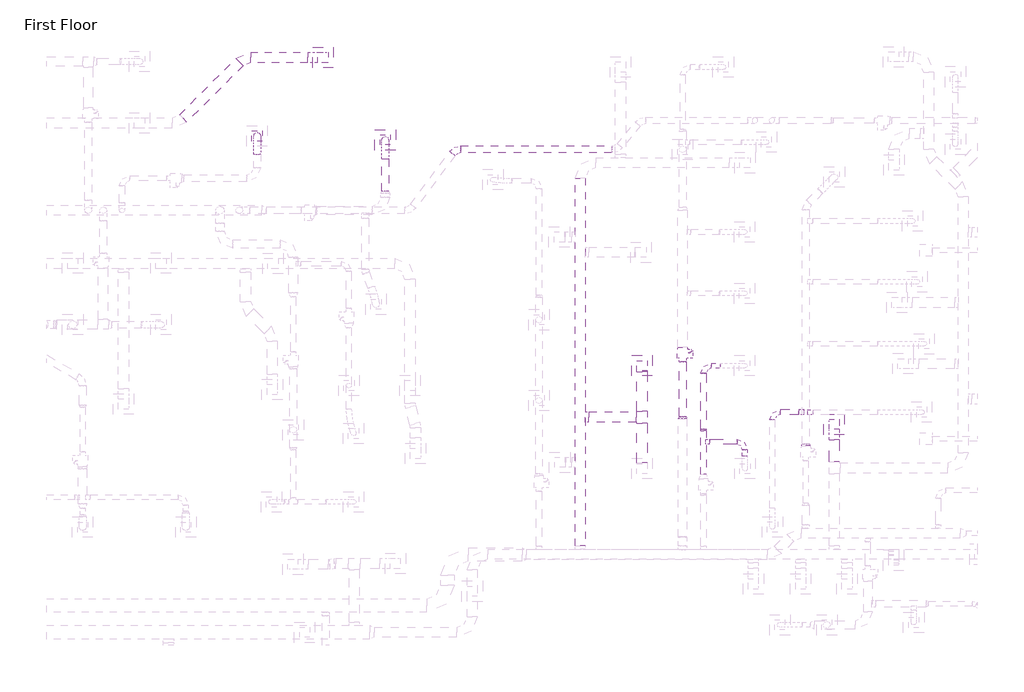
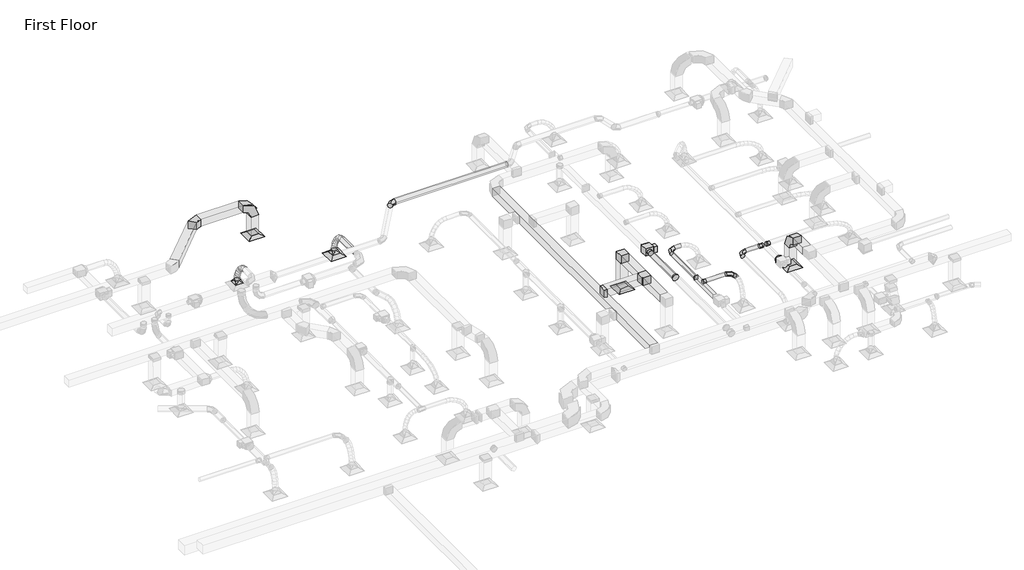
# One storey, part 26 of 61: 21 duct segments, 18 duct fittings, 4 air terminals, 1 proxy.
"""IFC4 building model written with IfcOpenShell, lengths in millimetres."""

from ifc_helpers import new_model, si_unit, point, frame, frame_2d, origin, place, context, project, spatial, polyline, circle_curve, ellipse_curve, trimmed, segment, composite_curve, outline, extrude, transform, mapped, element, save
from ifc_brep_helpers import plane_surface, cylinder_surface, advanced_brep
from components import m_exhaust_grill_er_600_x_600_face_300_x_300_connection_ff221211, m_vav_unit_single_duct_200_mm_f9143229, m_rectangular_elbow_mitered_standard_8eee5933, m_rectangular_elbow_radius_1_5_w_5bed5c13, m_rectangular_elbow_radius_1_5_w_86011e9f, m_rectangular_takeoff_standard_c00386d1, m_rectangular_tee_standard_bf2a2b7f, m_rectangular_to_round_transition_angle_45_degree_2860c485, m_rectangular_to_round_transition_angle_45_degree_60daae35, m_rectangular_to_round_transition_angle_45_degree_1b7ae117, m_round_elbow_1_5_d_2e586196, m_round_elbow_1_5_d_a73345fc, m_round_takeoff_standard_d02f3bf7, m_round_takeoff_standard_bf54a221, m_round_takeoff_standard_e1559ea3, m_round_transition_angle_45_degree_f1400fe6

model = new_model("IFC4")

# Units and contexts
model_context = context("Model", 3, world=origin())
ifc_project = project(units=[si_unit("LENGTHUNIT", "METRE", prefix="MILLI")], contexts=[model_context])

# Site, building, storey
site = spatial("IfcSite", under=ifc_project)
building = spatial("IfcBuilding", under=site)
storey = spatial("IfcBuildingStorey", under=building, Name="First Floor", Elevation=0.0)

# Air terminals
placement = place(None, origin())
m_exhaust_grill_er_600_x_600_face_300_x_300_connection_shape = m_exhaust_grill_er_600_x_600_face_300_x_300_connection_ff221211(model_context)
element("IfcAirTerminal", 1, ObjectType="M_Return Register : RR-600 x 600 Face 300 x 300 Connection", at=placement, inside=storey, context=model_context, shape_type="MappedRepresentation", body=[
    mapped(m_exhaust_grill_er_600_x_600_face_300_x_300_connection_shape, transform((-8263.3789506, 16841.5522919, 2680.0), x_axis=(1.0, 0.0, 0.0), y_axis=(0.0, 1.0, 0.0), z_axis=(0.0, 0.0, 1.0))),
])
element("IfcAirTerminal", 2, ObjectType="M_Return Register : RR-600 x 600 Face 300 x 300 Connection", at=placement, inside=storey, context=model_context, shape_type="MappedRepresentation", body=[
    mapped(m_exhaust_grill_er_600_x_600_face_300_x_300_connection_shape, transform((-13865.3877031, 18551.0725928, 2680.0), x_axis=(1.0, 0.0, 0.0), y_axis=(0.0, 1.0, 0.0), z_axis=(0.0, 0.0, 1.0))),
])
element("IfcAirTerminal", 3, ObjectType="M_Return Register : RR-600 x 600 Face 300 x 300 Connection", at=placement, inside=storey, context=model_context, shape_type="MappedRepresentation", body=[
    mapped(m_exhaust_grill_er_600_x_600_face_300_x_300_connection_shape, transform((-23165.2476431, 27536.771129, 2680.0), x_axis=(1.0, 0.0, 0.0), y_axis=(0.0, 1.0, 0.0), z_axis=(0.0, 0.0, 1.0))),
])
element("IfcAirTerminal", 4, ObjectType="M_Supply Diffuser : SD-600 x 600 Face 300 x 300 Connection", at=placement, inside=storey, context=model_context, shape_type="MappedRepresentation", body=[
    mapped(m_exhaust_grill_er_600_x_600_face_300_x_300_connection_shape, transform((-21352.0106075, 25136.6644294, 2680.0), x_axis=(1.0, 0.0, 0.0), y_axis=(0.0, 1.0, 0.0), z_axis=(0.0, 0.0, 1.0))),
])

# Proxy
m_vav_unit_single_duct_200_mm_shape = m_vav_unit_single_duct_200_mm_f9143229(model_context)
element("IfcBuildingElementProxy", 5, Name="M_VAV Unit - Single Duct : 200 mm", ObjectType="M_VAV Unit - Single Duct : 200 mm", at=placement, inside=storey, context=model_context, shape_type="MappedRepresentation", body=[
    mapped(m_vav_unit_single_duct_200_mm_shape, transform((-12680.2492424, 18762.5596581, 3500.05), x_axis=(0.0, 1.0, 0.0), y_axis=(-1.0, 0.0, 0.0), z_axis=(0.0, 0.0, 1.0))),
])

# Duct fittings
m_rectangular_elbow_mitered_standard_shape = m_rectangular_elbow_mitered_standard_8eee5933(model_context)
element("IfcDuctFitting", 6, ObjectType="M_Rectangular Elbow - Mitered : Standard", at=placement, inside=storey, context=model_context, shape_type="MappedRepresentation", body=[
    mapped(m_rectangular_elbow_mitered_standard_shape, transform((-13865.3877031, 18551.0725928, 4000.0), x_axis=(0.0, 0.0, 1.0), y_axis=(0.0, -1.0, 0.0), z_axis=(1.0, 0.0, 0.0))),
])
m_rectangular_elbow_radius_1_5_w_shape = m_rectangular_elbow_radius_1_5_w_5bed5c13(model_context)
element("IfcDuctFitting", 7, ObjectType="M_Rectangular Elbow - Radius : 1.5 W", at=placement, inside=storey, context=model_context, shape_type="MappedRepresentation", body=[
    mapped(m_rectangular_elbow_radius_1_5_w_shape, transform((-25465.2476431, 27536.771129, 4000.0), x_axis=(-1.0, 0.0, 0.0), y_axis=(0.0, -1.0, 0.0), z_axis=(0.0, 0.0, 1.0))),
])
m_rectangular_elbow_radius_1_5_w_2_shape = m_rectangular_elbow_radius_1_5_w_86011e9f(model_context)
element("IfcDuctFitting", 8, ObjectType="M_Rectangular Elbow - Radius : 1.5 W", at=placement, inside=storey, context=model_context, shape_type="MappedRepresentation", body=[
    mapped(m_rectangular_elbow_radius_1_5_w_2_shape, transform((-8263.3789506, 16841.5522919, 4000.0), x_axis=(0.0, 0.0, 1.0), y_axis=(0.0, -1.0, 0.0), z_axis=(1.0, 0.0, 0.0))),
])
element("IfcDuctFitting", 9, ObjectType="M_Rectangular Elbow - Radius : 1.5 W", at=placement, inside=storey, context=model_context, shape_type="MappedRepresentation", body=[
    mapped(m_rectangular_elbow_radius_1_5_w_2_shape, transform((-23165.2476431, 27536.771129, 4000.0), x_axis=(0.0, 0.0, 1.0), y_axis=(-1.0, 0.0, 0.0), z_axis=(0.0, -1.0, 0.0))),
])
m_rectangular_takeoff_standard_shape = m_rectangular_takeoff_standard_c00386d1(model_context)
element("IfcDuctFitting", 10, ObjectType="M_Rectangular Takeoff : Standard", at=placement, inside=storey, context=model_context, shape_type="MappedRepresentation", body=[
    mapped(m_rectangular_takeoff_standard_shape, transform((-15515.3877031, 17051.0725928, 4000.0), x_axis=(1.0, 0.0, 0.0), y_axis=(0.0, -1.0, 0.0), z_axis=(0.0, 0.0, -1.0))),
])
m_rectangular_tee_standard_shape = m_rectangular_tee_standard_bf2a2b7f(model_context)
element("IfcDuctFitting", 11, ObjectType="M_Rectangular Tee : Standard", at=placement, inside=storey, context=model_context, shape_type="MappedRepresentation", body=[
    mapped(m_rectangular_tee_standard_shape, transform((-13865.3877031, 17051.0725928, 4000.0), x_axis=(0.0, -1.0, 0.0), y_axis=(1.0, 0.0, 0.0), z_axis=(0.0, 0.0, 1.0))),
])
m_rectangular_to_round_transition_angle_45_degree_shape = m_rectangular_to_round_transition_angle_45_degree_2860c485(model_context)
element("IfcDuctFitting", 12, ObjectType="M_Rectangular to Round Transition - Angle : 45 Degree", at=placement, inside=storey, context=model_context, shape_type="MappedRepresentation", body=[
    mapped(m_rectangular_to_round_transition_angle_45_degree_shape, transform((-12071.862176, 16660.3073912, 3619.1), x_axis=(0.0, 1.0, 0.0), y_axis=(-1.0, 0.0, 0.0), z_axis=(0.0, 0.0, 1.0))),
])
m_rectangular_to_round_transition_angle_45_degree_2_shape = m_rectangular_to_round_transition_angle_45_degree_60daae35(model_context)
element("IfcDuctFitting", 13, ObjectType="M_Rectangular to Round Transition - Angle : 45 Degree", at=placement, inside=storey, context=model_context, shape_type="MappedRepresentation", body=[
    mapped(m_rectangular_to_round_transition_angle_45_degree_2_shape, transform((-21352.0106075, 25136.6644294, 2781.6), x_axis=(0.0, 0.0, 1.0), y_axis=(1.0, 0.0, 0.0), z_axis=(0.0, 1.0, 0.0))),
])
element("IfcDuctFitting", 14, ObjectType="M_Rectangular to Round Transition - Angle : 45 Degree", at=placement, inside=storey, context=model_context, shape_type="MappedRepresentation", body=[
    mapped(m_rectangular_to_round_transition_angle_45_degree_2_shape, transform((-25088.7510088, 25251.4077861, 2781.6), x_axis=(0.0, 0.0, 1.0), y_axis=(1.0, 0.0, 0.0), z_axis=(0.0, 1.0, 0.0))),
])
m_rectangular_to_round_transition_angle_45_degree_3_shape = m_rectangular_to_round_transition_angle_45_degree_1b7ae117(model_context)
element("IfcDuctFitting", 15, ObjectType="M_Rectangular to Round Transition - Angle : 45 Degree", at=placement, inside=storey, context=model_context, shape_type="MappedRepresentation", body=[
    mapped(m_rectangular_to_round_transition_angle_45_degree_3_shape, transform((-9089.2747853, 16220.4514222, 3619.05), x_axis=(0.0, 1.0, 0.0), y_axis=(-1.0, 0.0, 0.0), z_axis=(0.0, 0.0, 1.0))),
])
m_round_elbow_1_5_d_shape = m_round_elbow_1_5_d_2e586196(model_context)
element("IfcDuctFitting", 16, ObjectType="M_Round Elbow : 1.5 D", at=placement, inside=storey, context=model_context, shape_type="MappedRepresentation", body=[
    mapped(m_round_elbow_1_5_d_shape, transform((-10064.6506734, 17199.0230723, 3619.1), x_axis=(-1.0, 0.0, 0.0), y_axis=(0.0, -1.0, 0.0), z_axis=(0.0, 0.0, 1.0))),
])
element("IfcDuctFitting", 17, ObjectType="M_Round Elbow : 1.5 D", at=placement, inside=storey, context=model_context, shape_type="MappedRepresentation", body=[
    mapped(m_round_elbow_1_5_d_shape, transform((-12071.862176, 18551.0725928, 3619.1), x_axis=(-1.0, 0.0, 0.0), y_axis=(0.0, -1.0, 0.0), z_axis=(0.0, 0.0, 1.0))),
])
element("IfcDuctFitting", 18, ObjectType="M_Round Elbow : 1.5 D", at=placement, inside=storey, context=model_context, shape_type="MappedRepresentation", body=[
    mapped(m_round_elbow_1_5_d_shape, transform((-10867.3062165, 16331.2313331, 3619.1), x_axis=(0.0, 1.0, 0.0), y_axis=(-1.0, 0.0, 0.0), z_axis=(0.0, 0.0, 1.0))),
])
m_round_elbow_1_5_d_2_shape = m_round_elbow_1_5_d_a73345fc(model_context)
element("IfcDuctFitting", 19, ObjectType="M_Round Elbow : 1.5 D", at=placement, inside=storey, context=model_context, shape_type="MappedRepresentation", body=[
    mapped(m_round_elbow_1_5_d_2_shape, transform((-19305.4144275, 24857.2942874, 4279.0), x_axis=(-1.0, 0.0, 0.0), y_axis=(0.0, -1.0, 0.0), z_axis=(0.0, 0.0, 1.0))),
])
m_round_takeoff_standard_shape = m_round_takeoff_standard_d02f3bf7(model_context)
element("IfcDuctFitting", 20, ObjectType="M_Round Takeoff : Standard", at=placement, inside=storey, context=model_context, shape_type="MappedRepresentation", body=[
    mapped(m_round_takeoff_standard_shape, transform((-11996.862176, 16331.2313331, 3619.1), x_axis=(1.0, 0.0, 0.0), y_axis=(0.0, -1.0, 0.0), z_axis=(0.0, 0.0, -1.0))),
])
m_round_takeoff_standard_2_shape = m_round_takeoff_standard_bf54a221(model_context)
element("IfcDuctFitting", 21, ObjectType="M_Round Takeoff : Standard", at=placement, inside=storey, context=model_context, shape_type="MappedRepresentation", body=[
    mapped(m_round_takeoff_standard_2_shape, transform((-8989.2747853, 17198.591812, 3619.1), x_axis=(1.0, 0.0, 0.0), y_axis=(0.0, -1.0, 0.0), z_axis=(0.0, 0.0, -1.0))),
])
m_round_takeoff_standard_3_shape = m_round_takeoff_standard_e1559ea3(model_context)
element("IfcDuctFitting", 22, ObjectType="M_Round Takeoff : Standard", at=placement, inside=storey, context=model_context, shape_type="MappedRepresentation", body=[
    mapped(m_round_takeoff_standard_3_shape, transform((-9189.2747853, 17199.0230723, 3619.1), x_axis=(-1.0, 0.0, 0.0), y_axis=(0.0, 1.0, 0.0), z_axis=(0.0, 0.0, -1.0))),
])
m_round_transition_angle_45_degree_shape = m_round_transition_angle_45_degree_f1400fe6(model_context)
element("IfcDuctFitting", 23, ObjectType="M_Round Transition - Angle : 45 Degree", at=placement, inside=storey, context=model_context, shape_type="MappedRepresentation", body=[
    mapped(m_round_transition_angle_45_degree_shape, transform((-12680.8992424, 17060.9596581, 3634.6), x_axis=(0.0, -0.9999999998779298, 1.5624999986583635e-05), y_axis=(1.0000000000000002, 0.0, 0.0), z_axis=(0.0, 1.5624999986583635e-05, 0.9999999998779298))),
])

# Duct segments
element("IfcDuctSegment", 24, ObjectType="Flex - Round", at=placement, inside=storey, context=model_context, shape_type="AdvancedBrep", body=[
    advanced_brep(
    [(-21452.0106075, 24579.8596581, 3644.1), (-21352.0106075, 24563.0700207, 3545.519535), (-21252.0106075, 24579.8596581, 3644.1), (-21352.0106075, 24596.6492956, 3742.680465), (-21452.0106075, 24692.5508892, 3624.9071009), (-21352.0106075, 24660.7852119, 3528.8772658), (-21252.0106075, 24692.5508892, 3624.9071009), (-21352.0106075, 24724.3165664, 3720.936936), (-21452.0106075, 25136.6644294, 2902.3106781), (-21352.0106075, 25236.2328718, 2911.591048), (-21252.0106075, 25136.6644294, 2902.3106781), (-21352.0106075, 25037.0959869, 2893.0303083), (-21452.0106075, 24797.2921153, 3571.6726557), (-21352.0106075, 24741.3989733, 3487.9055394), (-21252.0106075, 24797.2921153, 3571.6726557), (-21352.0106075, 24853.1852573, 3655.439772), (-21452.0106075, 24891.9025341, 3490.9130422), (-21352.0106075, 24819.9539516, 3420.850877), (-21252.0106075, 24891.9025341, 3490.9130422), (-21352.0106075, 24963.8511166, 3560.9752073), (-21452.0106075, 24974.201343, 3389.1446383), (-21352.0106075, 24891.6562532, 3332.1858176), (-21252.0106075, 24974.201343, 3389.1446383), (-21352.0106075, 25056.7464329, 3446.103459), (-21452.0106075, 25042.0077395, 3272.8838221), (-21352.0106075, 24952.1555333, 3228.4537797), (-21252.0106075, 25042.0077395, 3272.8838221), (-21352.0106075, 25131.8599457, 3317.3138645), (-21452.0106075, 25093.1409211, 3148.6469713), (-21352.0106075, 24998.0161153, 3117.0276158), (-21252.0106075, 25093.1409211, 3148.6469713), (-21352.0106075, 25188.2657269, 3180.2663269), (-21452.0106075, 25125.4200852, 3022.950464), (-21352.0106075, 25026.5883436, 3005.766082), (-21252.0106075, 25125.4200852, 3022.950464), (-21352.0106075, 25224.2518268, 3040.1348461)],
    [
        (0, 1, circle_curve(frame((-21352.0106075, 24579.8596581, 3644.1), z_axis=(0.0, -0.9858046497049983, 0.16789637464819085), x_axis=(-1.0, 0.0, 0.0)), 100.0)),
        (1, 2, circle_curve(frame((-21352.0106075, 24579.8596581, 3644.1), z_axis=(0.0, -0.9858046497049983, 0.16789637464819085), x_axis=(-1.0, 0.0, 0.0)), 100.0)),
        (2, 3, circle_curve(frame((-21352.0106075, 24579.8596581, 3644.1), z_axis=(0.0, -0.9858046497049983, 0.16789637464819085), x_axis=(-1.0, 0.0, 0.0)), 100.0)),
        (3, 0, circle_curve(frame((-21352.0106075, 24579.8596581, 3644.1), z_axis=(0.0, -0.9858046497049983, 0.16789637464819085), x_axis=(-1.0, 0.0, 0.0)), 100.0)),
        (0, 4),
        (4, 5, ellipse_curve(frame((-21352.0106075, 24692.5508892, 3624.9071009), z_axis=(0.0, -0.9494052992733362, 0.31405346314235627), x_axis=(0.0, -0.31405346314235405, -0.9494052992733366)), 101.1473553, 100.0)),
        (5, 1),
        (5, 6, ellipse_curve(frame((-21352.0106075, 24692.5508892, 3624.9071009), z_axis=(0.0, -0.9494052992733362, 0.31405346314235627), x_axis=(0.0, -0.31405346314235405, -0.9494052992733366)), 101.1473553, 100.0)),
        (6, 2),
        (6, 7, ellipse_curve(frame((-21352.0106075, 24692.5508892, 3624.9071009), z_axis=(0.0, -0.9494052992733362, 0.31405346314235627), x_axis=(0.0, -0.31405346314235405, -0.9494052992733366)), 101.1473553, 100.0)),
        (7, 3),
        (7, 4, ellipse_curve(frame((-21352.0106075, 24692.5508892, 3624.9071009), z_axis=(0.0, -0.9494052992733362, 0.31405346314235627), x_axis=(0.0, -0.31405346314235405, -0.9494052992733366)), 101.1473553, 100.0)),
        (8, 9, circle_curve(frame((-21352.0106075, 25136.6644294, 2902.3106781), z_axis=(0.0, 0.09280369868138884, -0.9956844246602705), x_axis=(-1.0, 0.0, 0.0)), 100.0)),
        (9, 10, circle_curve(frame((-21352.0106075, 25136.6644294, 2902.3106781), z_axis=(0.0, 0.09280369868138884, -0.9956844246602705), x_axis=(-1.0, 0.0, 0.0)), 100.0)),
        (10, 11, circle_curve(frame((-21352.0106075, 25136.6644294, 2902.3106781), z_axis=(0.0, 0.09280369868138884, -0.9956844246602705), x_axis=(-1.0, 0.0, 0.0)), 100.0)),
        (11, 8, circle_curve(frame((-21352.0106075, 25136.6644294, 2902.3106781), z_axis=(0.0, 0.09280369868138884, -0.9956844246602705), x_axis=(-1.0, 0.0, 0.0)), 100.0)),
        (4, 12),
        (12, 13, ellipse_curve(frame((-21352.0106075, 24797.2921153, 3571.6726557), z_axis=(0.0, -0.831828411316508, 0.5550328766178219), x_axis=(0.0, -0.5550328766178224, -0.8318284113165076)), 100.7023987, 100.0)),
        (13, 5),
        (13, 14, ellipse_curve(frame((-21352.0106075, 24797.2921153, 3571.6726557), z_axis=(0.0, -0.831828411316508, 0.5550328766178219), x_axis=(0.0, -0.5550328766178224, -0.8318284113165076)), 100.7023987, 100.0)),
        (14, 6),
        (14, 15, ellipse_curve(frame((-21352.0106075, 24797.2921153, 3571.6726557), z_axis=(0.0, -0.831828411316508, 0.5550328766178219), x_axis=(0.0, -0.5550328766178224, -0.8318284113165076)), 100.7023987, 100.0)),
        (15, 7),
        (15, 12, ellipse_curve(frame((-21352.0106075, 24797.2921153, 3571.6726557), z_axis=(0.0, -0.831828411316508, 0.5550328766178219), x_axis=(0.0, -0.5550328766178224, -0.8318284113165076)), 100.7023987, 100.0)),
        (12, 16),
        (16, 17, ellipse_curve(frame((-21352.0106075, 24891.9025341, 3490.9130422), z_axis=(0.0, -0.6976522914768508, 0.7164365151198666), x_axis=(0.0, -0.7164365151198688, -0.6976522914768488)), 100.4256218, 100.0)),
        (17, 13),
        (17, 18, ellipse_curve(frame((-21352.0106075, 24891.9025341, 3490.9130422), z_axis=(0.0, -0.6976522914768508, 0.7164365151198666), x_axis=(0.0, -0.7164365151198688, -0.6976522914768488)), 100.4256218, 100.0)),
        (18, 14),
        (18, 19, ellipse_curve(frame((-21352.0106075, 24891.9025341, 3490.9130422), z_axis=(0.0, -0.6976522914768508, 0.7164365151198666), x_axis=(0.0, -0.7164365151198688, -0.6976522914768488)), 100.4256218, 100.0)),
        (19, 15),
        (19, 16, ellipse_curve(frame((-21352.0106075, 24891.9025341, 3490.9130422), z_axis=(0.0, -0.6976522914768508, 0.7164365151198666), x_axis=(0.0, -0.7164365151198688, -0.6976522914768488)), 100.4256218, 100.0)),
        (16, 20),
        (20, 21, ellipse_curve(frame((-21352.0106075, 24974.201343, 3389.1446383), z_axis=(0.0, -0.5679435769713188, 0.8230674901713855), x_axis=(0.0, -0.8230674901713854, -0.5679435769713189)), 100.2895763, 100.0)),
        (21, 17),
        (21, 22, ellipse_curve(frame((-21352.0106075, 24974.201343, 3389.1446383), z_axis=(0.0, -0.5679435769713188, 0.8230674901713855), x_axis=(0.0, -0.8230674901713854, -0.5679435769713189)), 100.2895763, 100.0)),
        (22, 18),
        (22, 23, ellipse_curve(frame((-21352.0106075, 24974.201343, 3389.1446383), z_axis=(0.0, -0.5679435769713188, 0.8230674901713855), x_axis=(0.0, -0.8230674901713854, -0.5679435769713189)), 100.2895763, 100.0)),
        (23, 19),
        (23, 20, ellipse_curve(frame((-21352.0106075, 24974.201343, 3389.1446383), z_axis=(0.0, -0.5679435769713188, 0.8230674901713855), x_axis=(0.0, -0.8230674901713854, -0.5679435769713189)), 100.2895763, 100.0)),
        (20, 24),
        (24, 25, ellipse_curve(frame((-21352.0106075, 25042.0077395, 3272.8838221), z_axis=(0.0, -0.4432501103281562, 0.8963979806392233), x_axis=(0.0, -0.8963979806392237, -0.4432501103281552)), 100.2369574, 100.0)),
        (25, 21),
        (25, 26, ellipse_curve(frame((-21352.0106075, 25042.0077395, 3272.8838221), z_axis=(0.0, -0.4432501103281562, 0.8963979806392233), x_axis=(0.0, -0.8963979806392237, -0.4432501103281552)), 100.2369574, 100.0)),
        (26, 22),
        (26, 27, ellipse_curve(frame((-21352.0106075, 25042.0077395, 3272.8838221), z_axis=(0.0, -0.4432501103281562, 0.8963979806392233), x_axis=(0.0, -0.8963979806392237, -0.4432501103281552)), 100.2369574, 100.0)),
        (27, 23),
        (27, 24, ellipse_curve(frame((-21352.0106075, 25042.0077395, 3272.8838221), z_axis=(0.0, -0.4432501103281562, 0.8963979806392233), x_axis=(0.0, -0.8963979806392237, -0.4432501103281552)), 100.2369574, 100.0)),
        (24, 28),
        (28, 29, ellipse_curve(frame((-21352.0106075, 25093.1409211, 3148.6469713), z_axis=(0.0, -0.3154293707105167, 0.9489490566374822), x_axis=(0.0, -0.9489490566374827, -0.31542937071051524)), 100.2422682, 100.0)),
        (29, 25),
        (29, 30, ellipse_curve(frame((-21352.0106075, 25093.1409211, 3148.6469713), z_axis=(0.0, -0.3154293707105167, 0.9489490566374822), x_axis=(0.0, -0.9489490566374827, -0.31542937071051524)), 100.2422682, 100.0)),
        (30, 26),
        (30, 31, ellipse_curve(frame((-21352.0106075, 25093.1409211, 3148.6469713), z_axis=(0.0, -0.3154293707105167, 0.9489490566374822), x_axis=(0.0, -0.9489490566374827, -0.31542937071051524)), 100.2422682, 100.0)),
        (31, 27),
        (31, 28, ellipse_curve(frame((-21352.0106075, 25093.1409211, 3148.6469713), z_axis=(0.0, -0.3154293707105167, 0.9489490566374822), x_axis=(0.0, -0.9489490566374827, -0.31542937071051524)), 100.2422682, 100.0)),
        (28, 32),
        (32, 33, ellipse_curve(frame((-21352.0106075, 25125.4200852, 3022.950464), z_axis=(0.0, -0.1713049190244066, 0.9852180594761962), x_axis=(0.0, -0.9852180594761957, -0.17130491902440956)), 100.3145859, 100.0)),
        (33, 29),
        (33, 34, ellipse_curve(frame((-21352.0106075, 25125.4200852, 3022.950464), z_axis=(0.0, -0.1713049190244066, 0.9852180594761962), x_axis=(0.0, -0.9852180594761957, -0.17130491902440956)), 100.3145859, 100.0)),
        (34, 30),
        (34, 35, ellipse_curve(frame((-21352.0106075, 25125.4200852, 3022.950464), z_axis=(0.0, -0.1713049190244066, 0.9852180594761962), x_axis=(0.0, -0.9852180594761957, -0.17130491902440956)), 100.3145859, 100.0)),
        (35, 31),
        (35, 32, ellipse_curve(frame((-21352.0106075, 25125.4200852, 3022.950464), z_axis=(0.0, -0.1713049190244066, 0.9852180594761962), x_axis=(0.0, -0.9852180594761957, -0.17130491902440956)), 100.3145859, 100.0)),
        (32, 8),
        (11, 33),
        (10, 34),
        (9, 35),
    ],
    [
        plane_surface(frame((-21352.0106075, 24596.6492956, 3742.680465), z_axis=(0.0, -0.9858046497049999, 0.16789637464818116), x_axis=(1.0, 0.0, 0.0))),
        cylinder_surface(frame((-21352.0106075, 24579.8596581, 3644.1), z_axis=(0.0, -0.9858046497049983, 0.16789637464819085), x_axis=(-1.0, 0.0, 0.0)), 100.0),
        plane_surface(frame((-21352.0106075, 25236.2328718, 2911.591048), z_axis=(0.0, 0.0928036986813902, -0.9956844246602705), x_axis=(1.0, 0.0, 0.0))),
        cylinder_surface(frame((-21352.0106075, 24692.5508892, 3624.9071009), z_axis=(0.0, -0.8914669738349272, 0.45308568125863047), x_axis=(-1.0, 0.0, 0.0)), 100.0),
        cylinder_surface(frame((-21352.0106075, 24797.2921153, 3571.6726557), z_axis=(0.0, -0.760585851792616, 0.6492373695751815), x_axis=(-1.0, 0.0, 0.0)), 100.0),
        cylinder_surface(frame((-21352.0106075, 24891.9025341, 3490.9130422), z_axis=(0.0, -0.6288051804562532, 0.7775628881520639), x_axis=(-1.0, 0.0, 0.0)), 100.0),
        cylinder_surface(frame((-21352.0106075, 24974.201343, 3389.1446383), z_axis=(0.0, -0.5038022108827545, 0.8638190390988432), x_axis=(-1.0, 0.0, 0.0)), 100.0),
        cylinder_surface(frame((-21352.0106075, 25042.0077395, 3272.8838221), z_axis=(0.0, -0.3806023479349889, 0.9247388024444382), x_axis=(-1.0, 0.0, 0.0)), 100.0),
        cylinder_surface(frame((-21352.0106075, 25093.1409211, 3148.6469713), z_axis=(0.0, -0.24873171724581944, 0.9685724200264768), x_axis=(-1.0, 0.0, 0.0)), 100.0),
        cylinder_surface(frame((-21352.0106075, 25125.4200852, 3022.950464), z_axis=(0.0, -0.09280369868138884, 0.9956844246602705), x_axis=(-1.0, 0.0, 0.0)), 100.0),
    ],
    [
        (0, [[1, 2, 3, 4]]),
        (1, [[-1, 5, 6, 7]]),
        (1, [[-2, -7, 8, 9]]),
        (1, [[-3, -9, 10, 11]]),
        (1, [[-4, -11, 12, -5]]),
        (2, [[13, 14, 15, 16]]),
        (3, [[-6, 17, 18, 19]]),
        (3, [[-8, -19, 20, 21]]),
        (3, [[-10, -21, 22, 23]]),
        (3, [[-12, -23, 24, -17]]),
        (4, [[-18, 25, 26, 27]]),
        (4, [[-20, -27, 28, 29]]),
        (4, [[-22, -29, 30, 31]]),
        (4, [[-24, -31, 32, -25]]),
        (5, [[-26, 33, 34, 35]]),
        (5, [[-28, -35, 36, 37]]),
        (5, [[-30, -37, 38, 39]]),
        (5, [[-32, -39, 40, -33]]),
        (6, [[-34, 41, 42, 43]]),
        (6, [[-36, -43, 44, 45]]),
        (6, [[-38, -45, 46, 47]]),
        (6, [[-40, -47, 48, -41]]),
        (7, [[-42, 49, 50, 51]]),
        (7, [[-44, -51, 52, 53]]),
        (7, [[-46, -53, 54, 55]]),
        (7, [[-48, -55, 56, -49]]),
        (8, [[-50, 57, 58, 59]]),
        (8, [[-52, -59, 60, 61]]),
        (8, [[-54, -61, 62, 63]]),
        (8, [[-56, -63, 64, -57]]),
        (9, [[-58, 65, -16, 66]]),
        (9, [[-60, -66, -15, 67]]),
        (9, [[-62, -67, -14, 68]]),
        (9, [[-64, -68, -13, -65]]),
    ],
),
])
element("IfcDuctSegment", 25, ObjectType="Flex - Round", at=placement, inside=storey, context=model_context, shape_type="AdvancedBrep", body=[
    advanced_brep(
    [(-25188.7510088, 24716.391812, 3619.1), (-25088.7510088, 24699.5347651, 3520.5310395), (-24988.7510088, 24716.391812, 3619.1), (-25088.7510088, 24733.2488588, 3717.6689605), (-25188.7510088, 24824.9818097, 3600.5291774), (-25088.7510088, 24793.0755015, 3504.5339085), (-24988.7510088, 24824.9818097, 3600.5291774), (-25088.7510088, 24856.8881178, 3696.5244463), (-25188.7510088, 25251.4077861, 2902.3106781), (-25088.7510088, 25350.9832332, 2911.5155866), (-24988.7510088, 25251.4077861, 2902.3106781), (-25088.7510088, 25151.832339, 2893.1057696), (-25188.7510088, 24925.7691633, 3549.0287036), (-25088.7510088, 24869.6500464, 3465.4057322), (-24988.7510088, 24925.7691633, 3549.0287036), (-25088.7510088, 24981.8882802, 3632.651675), (-25188.7510088, 25016.6961948, 3470.9165695), (-25088.7510088, 24944.5132693, 3401.0934368), (-24988.7510088, 25016.6961948, 3470.9165695), (-25088.7510088, 25088.8791203, 3540.7397022), (-25188.7510088, 25095.705226, 3372.5107661), (-25088.7510088, 25012.9641711, 3315.8377909), (-24988.7510088, 25095.705226, 3372.5107661), (-25088.7510088, 25178.4462809, 3429.1837412), (-25188.7510088, 25160.7385789, 3260.1292843), (-25088.7510088, 25070.7486753, 3215.9827486), (-24988.7510088, 25160.7385789, 3260.1292843), (-25088.7510088, 25250.7284825, 3304.27582), (-25188.7510088, 25209.7385753, 3140.090115), (-25088.7510088, 25114.5392486, 3108.7055153), (-24988.7510088, 25209.7385753, 3140.090115), (-25088.7510088, 25304.9379019, 3171.4747148), (-25188.7510088, 25240.647537, 3018.7112493), (-25088.7510088, 25141.796948, 3001.665083), (-24988.7510088, 25240.647537, 3018.7112493), (-25088.7510088, 25339.4981261, 3035.7574157)],
    [
        (0, 1, circle_curve(frame((-25088.7510088, 24716.391812, 3619.1), z_axis=(0.0, -0.9856896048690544, 0.16857046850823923), x_axis=(-1.0, 0.0, 0.0)), 100.0)),
        (1, 2, circle_curve(frame((-25088.7510088, 24716.391812, 3619.1), z_axis=(0.0, -0.9856896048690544, 0.16857046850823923), x_axis=(-1.0, 0.0, 0.0)), 100.0)),
        (2, 3, circle_curve(frame((-25088.7510088, 24716.391812, 3619.1), z_axis=(0.0, -0.9856896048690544, 0.16857046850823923), x_axis=(-1.0, 0.0, 0.0)), 100.0)),
        (3, 0, circle_curve(frame((-25088.7510088, 24716.391812, 3619.1), z_axis=(0.0, -0.9856896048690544, 0.16857046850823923), x_axis=(-1.0, 0.0, 0.0)), 100.0)),
        (0, 4),
        (4, 5, ellipse_curve(frame((-25088.7510088, 24824.9818097, 3600.5291774), z_axis=(0.0, -0.9489561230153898, 0.3154081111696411), x_axis=(0.0, -0.31540811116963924, -0.9489561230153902)), 101.1588066, 100.0)),
        (5, 1),
        (5, 6, ellipse_curve(frame((-25088.7510088, 24824.9818097, 3600.5291774), z_axis=(0.0, -0.9489561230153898, 0.3154081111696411), x_axis=(0.0, -0.31540811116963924, -0.9489561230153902)), 101.1588066, 100.0)),
        (6, 2),
        (6, 7, ellipse_curve(frame((-25088.7510088, 24824.9818097, 3600.5291774), z_axis=(0.0, -0.9489561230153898, 0.3154081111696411), x_axis=(0.0, -0.31540811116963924, -0.9489561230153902)), 101.1588066, 100.0)),
        (7, 3),
        (7, 4, ellipse_curve(frame((-25088.7510088, 24824.9818097, 3600.5291774), z_axis=(0.0, -0.9489561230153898, 0.3154081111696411), x_axis=(0.0, -0.31540811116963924, -0.9489561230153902)), 101.1588066, 100.0)),
        (8, 9, circle_curve(frame((-25088.7510088, 25251.4077861, 2902.3106781), z_axis=(0.0, 0.09204908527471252, -0.9957544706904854), x_axis=(-1.0, 0.0, 0.0)), 100.0)),
        (9, 10, circle_curve(frame((-25088.7510088, 25251.4077861, 2902.3106781), z_axis=(0.0, 0.09204908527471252, -0.9957544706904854), x_axis=(-1.0, 0.0, 0.0)), 100.0)),
        (10, 11, circle_curve(frame((-25088.7510088, 25251.4077861, 2902.3106781), z_axis=(0.0, 0.09204908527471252, -0.9957544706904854), x_axis=(-1.0, 0.0, 0.0)), 100.0)),
        (11, 8, circle_curve(frame((-25088.7510088, 25251.4077861, 2902.3106781), z_axis=(0.0, 0.09204908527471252, -0.9957544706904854), x_axis=(-1.0, 0.0, 0.0)), 100.0)),
        (4, 12),
        (12, 13, ellipse_curve(frame((-25088.7510088, 24925.7691633, 3549.0287036), z_axis=(0.0, -0.8303485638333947, 0.5572443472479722), x_axis=(0.0, -0.5572443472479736, -0.830348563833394)), 100.7082749, 100.0)),
        (13, 5),
        (13, 14, ellipse_curve(frame((-25088.7510088, 24925.7691633, 3549.0287036), z_axis=(0.0, -0.8303485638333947, 0.5572443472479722), x_axis=(0.0, -0.5572443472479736, -0.830348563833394)), 100.7082749, 100.0)),
        (14, 6),
        (14, 15, ellipse_curve(frame((-25088.7510088, 24925.7691633, 3549.0287036), z_axis=(0.0, -0.8303485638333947, 0.5572443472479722), x_axis=(0.0, -0.5572443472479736, -0.830348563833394)), 100.7082749, 100.0)),
        (15, 7),
        (15, 12, ellipse_curve(frame((-25088.7510088, 24925.7691633, 3549.0287036), z_axis=(0.0, -0.8303485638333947, 0.5572443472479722), x_axis=(0.0, -0.5572443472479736, -0.830348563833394)), 100.7082749, 100.0)),
        (12, 16),
        (16, 17, ellipse_curve(frame((-25088.7510088, 25016.6961948, 3470.9165695), z_axis=(0.0, -0.6952604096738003, 0.7187579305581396), x_axis=(0.0, -0.7187579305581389, -0.6952604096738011)), 100.42731, 100.0)),
        (17, 13),
        (17, 18, ellipse_curve(frame((-25088.7510088, 25016.6961948, 3470.9165695), z_axis=(0.0, -0.6952604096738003, 0.7187579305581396), x_axis=(0.0, -0.7187579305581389, -0.6952604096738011)), 100.42731, 100.0)),
        (18, 14),
        (18, 19, ellipse_curve(frame((-25088.7510088, 25016.6961948, 3470.9165695), z_axis=(0.0, -0.6952604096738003, 0.7187579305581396), x_axis=(0.0, -0.7187579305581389, -0.6952604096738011)), 100.42731, 100.0)),
        (19, 15),
        (19, 16, ellipse_curve(frame((-25088.7510088, 25016.6961948, 3470.9165695), z_axis=(0.0, -0.6952604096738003, 0.7187579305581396), x_axis=(0.0, -0.7187579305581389, -0.6952604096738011)), 100.42731, 100.0)),
        (16, 20),
        (20, 21, ellipse_curve(frame((-25088.7510088, 25095.705226, 3372.5107661), z_axis=(0.0, -0.5650959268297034, 0.8250252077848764), x_axis=(0.0, -0.8250252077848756, -0.5650959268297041)), 100.2891234, 100.0)),
        (21, 17),
        (21, 22, ellipse_curve(frame((-25088.7510088, 25095.705226, 3372.5107661), z_axis=(0.0, -0.5650959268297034, 0.8250252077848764), x_axis=(0.0, -0.8250252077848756, -0.5650959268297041)), 100.2891234, 100.0)),
        (22, 18),
        (22, 23, ellipse_curve(frame((-25088.7510088, 25095.705226, 3372.5107661), z_axis=(0.0, -0.5650959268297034, 0.8250252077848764), x_axis=(0.0, -0.8250252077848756, -0.5650959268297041)), 100.2891234, 100.0)),
        (23, 19),
        (23, 20, ellipse_curve(frame((-25088.7510088, 25095.705226, 3372.5107661), z_axis=(0.0, -0.5650959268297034, 0.8250252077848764), x_axis=(0.0, -0.8250252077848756, -0.5650959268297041)), 100.2891234, 100.0)),
        (20, 24),
        (24, 25, ellipse_curve(frame((-25088.7510088, 25160.7385789, 3260.1292843), z_axis=(0.0, -0.4404293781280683, 0.8977872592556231), x_axis=(0.0, -0.8977872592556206, -0.44042937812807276)), 100.2352202, 100.0)),
        (25, 21),
        (25, 26, ellipse_curve(frame((-25088.7510088, 25160.7385789, 3260.1292843), z_axis=(0.0, -0.4404293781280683, 0.8977872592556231), x_axis=(0.0, -0.8977872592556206, -0.44042937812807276)), 100.2352202, 100.0)),
        (26, 22),
        (26, 27, ellipse_curve(frame((-25088.7510088, 25160.7385789, 3260.1292843), z_axis=(0.0, -0.4404293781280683, 0.8977872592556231), x_axis=(0.0, -0.8977872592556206, -0.44042937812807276)), 100.2352202, 100.0)),
        (27, 23),
        (27, 24, ellipse_curve(frame((-25088.7510088, 25160.7385789, 3260.1292843), z_axis=(0.0, -0.4404293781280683, 0.8977872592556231), x_axis=(0.0, -0.8977872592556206, -0.44042937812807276)), 100.2352202, 100.0)),
        (24, 28),
        (28, 29, ellipse_curve(frame((-25088.7510088, 25209.7385753, 3140.090115), z_axis=(0.0, -0.31309694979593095, 0.9497211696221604), x_axis=(0.0, -0.9497211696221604, -0.31309694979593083)), 100.2392383, 100.0)),
        (29, 25),
        (29, 30, ellipse_curve(frame((-25088.7510088, 25209.7385753, 3140.090115), z_axis=(0.0, -0.31309694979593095, 0.9497211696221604), x_axis=(0.0, -0.9497211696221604, -0.31309694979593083)), 100.2392383, 100.0)),
        (30, 26),
        (30, 31, ellipse_curve(frame((-25088.7510088, 25209.7385753, 3140.090115), z_axis=(0.0, -0.31309694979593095, 0.9497211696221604), x_axis=(0.0, -0.9497211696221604, -0.31309694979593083)), 100.2392383, 100.0)),
        (31, 27),
        (31, 28, ellipse_curve(frame((-25088.7510088, 25209.7385753, 3140.090115), z_axis=(0.0, -0.31309694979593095, 0.9497211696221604), x_axis=(0.0, -0.9497211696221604, -0.31309694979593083)), 100.2392383, 100.0)),
        (28, 32),
        (32, 33, ellipse_curve(frame((-25088.7510088, 25240.647537, 3018.7112493), z_axis=(0.0, -0.16993558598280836, 0.9854551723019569), x_axis=(0.0, -0.9854551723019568, -0.1699355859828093)), 100.3095745, 100.0)),
        (33, 29),
        (33, 34, ellipse_curve(frame((-25088.7510088, 25240.647537, 3018.7112493), z_axis=(0.0, -0.16993558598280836, 0.9854551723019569), x_axis=(0.0, -0.9854551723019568, -0.1699355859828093)), 100.3095745, 100.0)),
        (34, 30),
        (34, 35, ellipse_curve(frame((-25088.7510088, 25240.647537, 3018.7112493), z_axis=(0.0, -0.16993558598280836, 0.9854551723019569), x_axis=(0.0, -0.9854551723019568, -0.1699355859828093)), 100.3095745, 100.0)),
        (35, 31),
        (35, 32, ellipse_curve(frame((-25088.7510088, 25240.647537, 3018.7112493), z_axis=(0.0, -0.16993558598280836, 0.9854551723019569), x_axis=(0.0, -0.9854551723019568, -0.1699355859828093)), 100.3095745, 100.0)),
        (32, 8),
        (11, 33),
        (10, 34),
        (9, 35),
    ],
    [
        plane_surface(frame((-25088.7510088, 24733.2488588, 3717.6689605), z_axis=(0.0, -0.9856896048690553, 0.16857046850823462), x_axis=(1.0, 0.0, 0.0))),
        cylinder_surface(frame((-25088.7510088, 24716.391812, 3619.1), z_axis=(0.0, -0.9856896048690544, 0.16857046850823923), x_axis=(-1.0, 0.0, 0.0)), 100.0),
        plane_surface(frame((-25088.7510088, 25350.9832332, 2911.5155866), z_axis=(0.0, 0.09204908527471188, -0.9957544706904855), x_axis=(1.0, 0.0, 0.0))),
        cylinder_surface(frame((-25088.7510088, 24824.9818097, 3600.5291774), z_axis=(0.0, -0.8904814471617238, 0.45501955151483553), x_axis=(-1.0, 0.0, 0.0)), 100.0),
        cylinder_surface(frame((-25088.7510088, 24925.7691633, 3549.0287036), z_axis=(0.0, -0.7585361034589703, 0.6516310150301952), x_axis=(-1.0, 0.0, 0.0)), 100.0),
        cylinder_surface(frame((-25088.7510088, 25016.6961948, 3470.9165695), z_axis=(0.0, -0.6260681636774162, 0.7797683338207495), x_axis=(-1.0, 0.0, 0.0)), 100.0),
        cylinder_surface(frame((-25088.7510088, 25095.705226, 3372.5107661), z_axis=(0.0, -0.5008654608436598, 0.8655251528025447), x_axis=(-1.0, 0.0, 0.0)), 100.0),
        cylinder_surface(frame((-25088.7510088, 25160.7385789, 3260.1292843), z_axis=(0.0, -0.37792620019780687, 0.9258357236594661), x_axis=(-1.0, 0.0, 0.0)), 100.0),
        cylinder_surface(frame((-25088.7510088, 25209.7385753, 3140.090115), z_axis=(0.0, -0.24677317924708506, 0.9690732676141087), x_axis=(-1.0, 0.0, 0.0)), 100.0),
        cylinder_surface(frame((-25088.7510088, 25240.647537, 3018.7112493), z_axis=(0.0, -0.09204908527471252, 0.9957544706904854), x_axis=(-1.0, 0.0, 0.0)), 100.0),
    ],
    [
        (0, [[1, 2, 3, 4]]),
        (1, [[-1, 5, 6, 7]]),
        (1, [[-2, -7, 8, 9]]),
        (1, [[-3, -9, 10, 11]]),
        (1, [[-4, -11, 12, -5]]),
        (2, [[13, 14, 15, 16]]),
        (3, [[-6, 17, 18, 19]]),
        (3, [[-8, -19, 20, 21]]),
        (3, [[-10, -21, 22, 23]]),
        (3, [[-12, -23, 24, -17]]),
        (4, [[-18, 25, 26, 27]]),
        (4, [[-20, -27, 28, 29]]),
        (4, [[-22, -29, 30, 31]]),
        (4, [[-24, -31, 32, -25]]),
        (5, [[-26, 33, 34, 35]]),
        (5, [[-28, -35, 36, 37]]),
        (5, [[-30, -37, 38, 39]]),
        (5, [[-32, -39, 40, -33]]),
        (6, [[-34, 41, 42, 43]]),
        (6, [[-36, -43, 44, 45]]),
        (6, [[-38, -45, 46, 47]]),
        (6, [[-40, -47, 48, -41]]),
        (7, [[-42, 49, 50, 51]]),
        (7, [[-44, -51, 52, 53]]),
        (7, [[-46, -53, 54, 55]]),
        (7, [[-48, -55, 56, -49]]),
        (8, [[-50, 57, 58, 59]]),
        (8, [[-52, -59, 60, 61]]),
        (8, [[-54, -61, 62, 63]]),
        (8, [[-56, -63, 64, -57]]),
        (9, [[-58, 65, -16, 66]]),
        (9, [[-60, -66, -15, 67]]),
        (9, [[-62, -67, -14, 68]]),
        (9, [[-64, -68, -13, -65]]),
    ],
),
])
element("IfcDuctSegment", 26, ObjectType="Mitered Elbows / Taps", at=placement, inside=storey, context=model_context, shape_type="SweptSolid", body=[
    extrude(outline(polyline([(-14015.3877031, 18376.0725928), (-13715.3877031, 18376.0725928), (-13715.3877031, 17226.0725928), (-14015.3877031, 17226.0725928), (-14015.3877031, 18376.0725928)])), frame((0.0, 0.0, 3850.0), z_axis=(0.0, 0.0, 1.0), x_axis=(1.0, 0.0, 0.0)), (0.0, 0.0, 1.0), 300.0),
])
element("IfcDuctSegment", 27, ObjectType="Mitered Elbows / Taps", at=placement, inside=storey, context=model_context, shape_type="SweptSolid", body=[
    extrude(outline(polyline([(-13715.3877031, 18401.0725928), (-14015.3877031, 18401.0725928), (-14015.3877031, 18701.0725928), (-13715.3877031, 18701.0725928), (-13715.3877031, 18401.0725928)])), frame((0.0, 0.0, 2781.6), z_axis=(0.0, 0.0, 1.0), x_axis=(1.0, 0.0, 0.0)), (0.0, 0.0, 1.0), 1043.4),
])
element("IfcDuctSegment", 28, ObjectType="Mitered Elbows / Taps", at=placement, inside=storey, context=model_context, shape_type="SweptSolid", body=[
    extrude(outline(polyline([(-15415.3877031, 16901.0725928), (-15415.3877031, 17201.0725928), (-14040.3877031, 17201.0725928), (-14040.3877031, 16901.0725928), (-15415.3877031, 16901.0725928)])), frame((0.0, 0.0, 3850.0), z_axis=(0.0, 0.0, 1.0), x_axis=(1.0, 0.0, 0.0)), (0.0, 0.0, 1.0), 300.0),
])
element("IfcDuctSegment", 29, ObjectType="Mitered Elbows / Taps", at=placement, inside=storey, context=model_context, shape_type="SweptSolid", body=[
    extrude(outline(polyline([(-13715.3877031, 15723.9958677), (-14015.3877031, 15723.9958677), (-14015.3877031, 16876.0725928), (-13715.3877031, 16876.0725928), (-13715.3877031, 15723.9958677)])), frame((0.0, 0.0, 3850.0), z_axis=(0.0, 0.0, 1.0), x_axis=(1.0, 0.0, 0.0)), (0.0, 0.0, 1.0), 300.0),
])
element("IfcDuctSegment", 30, ObjectType="Radius Elbows / Taps", at=placement, inside=storey, context=model_context, shape_type="SweptSolid", body=[
    extrude(outline(polyline([(-11996.862176, 15381.0180693), (-12146.862176, 15381.0180693), (-12146.862176, 16660.3073912), (-11996.862176, 16660.3073912), (-11996.862176, 15381.0180693)])), frame((0.0, 0.0, 3544.1), z_axis=(0.0, 0.0, 1.0), x_axis=(1.0, 0.0, 0.0)), (0.0, 0.0, 1.0), 150.0),
])
element("IfcDuctSegment", 31, ObjectType="Radius Elbows / Taps", at=placement, inside=storey, context=model_context, shape_type="SweptSolid", body=[
    extrude(outline(polyline([(-8413.3789506, 16391.5522919), (-8113.3789506, 16391.5522919), (-8113.3789506, 15744.0358848), (-8413.3789506, 15744.0358848), (-8413.3789506, 16391.5522919)])), frame((0.0, 0.0, 3850.0), z_axis=(0.0, 0.0, 1.0), x_axis=(1.0, 0.0, 0.0)), (0.0, 0.0, 1.0), 300.0),
])
element("IfcDuctSegment", 32, ObjectType="Radius Elbows / Taps", at=placement, inside=storey, context=model_context, shape_type="SweptSolid", body=[
    extrude(outline(polyline([(-8113.3789506, 16691.5522919), (-8413.3789506, 16691.5522919), (-8413.3789506, 16991.5522919), (-8113.3789506, 16991.5522919), (-8113.3789506, 16691.5522919)])), frame((0.0, 0.0, 2781.6), z_axis=(0.0, 0.0, 1.0), x_axis=(1.0, 0.0, 0.0)), (0.0, 0.0, 1.0), 768.4),
])
element("IfcDuctSegment", 33, ObjectType="Radius Elbows / Taps", at=placement, inside=storey, context=model_context, shape_type="SweptSolid", body=[
    extrude(outline(polyline([(-15815.3877031, 24019.0232506), (-15515.3877031, 24019.0232506), (-15515.3877031, 13304.4648445), (-15815.3877031, 13304.4648445), (-15815.3877031, 24019.0232506)])), frame((0.0, 0.0, 3850.0), z_axis=(0.0, 0.0, 1.0), x_axis=(1.0, 0.0, 0.0)), (0.0, 0.0, 1.0), 300.0),
])
element("IfcDuctSegment", 34, ObjectType="Radius Elbows / Taps", at=placement, inside=storey, context=model_context, shape_type="SweptSolid", body=[
    extrude(outline(polyline([(-23615.2476431, 27686.771129), (-23615.2476431, 27386.771129), (-25278.85154, 27386.771129), (-25278.85154, 27686.771129), (-23615.2476431, 27686.771129)])), frame((0.0, 0.0, 3850.0), z_axis=(0.0, 0.0, 1.0), x_axis=(1.0, 0.0, 0.0)), (0.0, 0.0, 1.0), 300.0),
])
element("IfcDuctSegment", 35, ObjectType="Radius Elbows / Taps", at=placement, inside=storey, context=model_context, shape_type="SweptSolid", body=[
    extrude(outline(polyline([(-23315.2476431, 27386.771129), (-23315.2476431, 27686.771129), (-23015.2476431, 27686.771129), (-23015.2476431, 27386.771129), (-23315.2476431, 27386.771129)])), frame((0.0, 0.0, 2781.6), z_axis=(0.0, 0.0, 1.0), x_axis=(1.0, 0.0, 0.0)), (0.0, 0.0, 1.0), 768.4),
])
element("IfcDuctSegment", 36, ObjectType="Radius Elbows / Taps", at=placement, inside=storey, context=model_context, shape_type="SweptSolid", body=[
    extrude(outline(polyline([(-25703.1156087, 27511.0351977), (-25490.9835744, 27298.9031633), (-27137.2558626, 25652.6308751), (-27349.387897, 25864.7629094), (-25703.1156087, 27511.0351977)])), frame((0.0, 0.0, 3850.0), z_axis=(0.0, 0.0, 1.0), x_axis=(1.0, 0.0, 0.0)), (0.0, 0.0, 1.0), 300.0),
])
element("IfcDuctSegment", 37, ObjectType="Taps", at=placement, inside=storey, context=model_context, shape_type="SweptSolid", body=[
    extrude(outline(composite_curve([segment(trimmed(circle_curve(frame_2d((17199.0230723, 3619.1)), 75.0), [point((17274.0230723, 3619.1))], [point((17199.0230723, 3544.1))], False, "CARTESIAN"), True, "CONTINUOUS"), segment(trimmed(circle_curve(frame_2d((17199.0230723, 3619.1)), 75.0), [point((17199.0230723, 3544.1))], [point((17124.0230723, 3619.1))], False, "CARTESIAN"), True, "CONTINUOUS"), segment(trimmed(circle_curve(frame_2d((17199.0230723, 3619.1)), 75.0), [point((17124.0230723, 3619.1))], [point((17199.0230723, 3694.1))], False, "CARTESIAN"), True, "CONTINUOUS"), segment(trimmed(circle_curve(frame_2d((17199.0230723, 3619.1)), 75.0), [point((17199.0230723, 3694.1))], [point((17274.0230723, 3619.1))], False, "CARTESIAN"), True, "CONTINUOUS")], self_intersect=False)), frame((-9839.6506734, 0.0, 0.0), z_axis=(1.0, 0.0, 0.0), x_axis=(0.0, 1.0, 0.0)), (0.0, 0.0, 1.0), 550.3758881),
])
element("IfcDuctSegment", 38, ObjectType="Taps", at=placement, inside=storey, context=model_context, shape_type="SweptSolid", body=[
    extrude(outline(composite_curve([segment(trimmed(circle_curve(frame_2d((3619.1, -12071.862176)), 75.0), [point((3619.1, -11996.862176))], [point((3694.1, -12071.862176))], False, "CARTESIAN"), True, "CONTINUOUS"), segment(trimmed(circle_curve(frame_2d((3619.1, -12071.862176)), 75.0), [point((3694.1, -12071.862176))], [point((3619.1, -12146.862176))], False, "CARTESIAN"), True, "CONTINUOUS"), segment(trimmed(circle_curve(frame_2d((3619.1, -12071.862176)), 75.0), [point((3619.1, -12146.862176))], [point((3544.1, -12071.862176))], False, "CARTESIAN"), True, "CONTINUOUS"), segment(trimmed(circle_curve(frame_2d((3619.1, -12071.862176)), 75.0), [point((3544.1, -12071.862176))], [point((3619.1, -11996.862176))], False, "CARTESIAN"), True, "CONTINUOUS")], self_intersect=False)), frame((0.0, 16697.8073912, 0.0), z_axis=(0.0, 1.0, 0.0), x_axis=(0.0, 0.0, 1.0)), (0.0, 0.0, 1.0), 1628.2652016),
])
element("IfcDuctSegment", 39, ObjectType="Taps", at=placement, inside=storey, context=model_context, shape_type="SweptSolid", body=[
    extrude(outline(composite_curve([segment(trimmed(circle_curve(frame_2d((18551.0725928, 3619.1)), 75.0), [point((18476.0725928, 3619.1))], [point((18551.0725928, 3694.1))], False, "CARTESIAN"), True, "CONTINUOUS"), segment(trimmed(circle_curve(frame_2d((18551.0725928, 3619.1)), 75.0), [point((18551.0725928, 3694.1))], [point((18626.0725928, 3619.1))], False, "CARTESIAN"), True, "CONTINUOUS"), segment(trimmed(circle_curve(frame_2d((18551.0725928, 3619.1)), 75.0), [point((18626.0725928, 3619.1))], [point((18551.0725928, 3544.1))], False, "CARTESIAN"), True, "CONTINUOUS"), segment(trimmed(circle_curve(frame_2d((18551.0725928, 3619.1)), 75.0), [point((18551.0725928, 3544.1))], [point((18476.0725928, 3619.1))], False, "CARTESIAN"), True, "CONTINUOUS")], self_intersect=False)), frame((-11846.862176, 0.0, 0.0), z_axis=(1.0, 0.0, 0.0), x_axis=(0.0, 1.0, 0.0)), (0.0, 0.0, 1.0), 259.5798114),
])
element("IfcDuctSegment", 40, ObjectType="Taps", at=placement, inside=storey, context=model_context, shape_type="SweptSolid", body=[
    extrude(outline(composite_curve([segment(trimmed(circle_curve(frame_2d((16331.2313331, 3619.1)), 75.0), [point((16256.2313331, 3619.1))], [point((16331.2313331, 3694.1))], False, "CARTESIAN"), True, "CONTINUOUS"), segment(trimmed(circle_curve(frame_2d((16331.2313331, 3619.1)), 75.0), [point((16331.2313331, 3694.1))], [point((16406.2313331, 3619.1))], False, "CARTESIAN"), True, "CONTINUOUS"), segment(trimmed(circle_curve(frame_2d((16331.2313331, 3619.1)), 75.0), [point((16406.2313331, 3619.1))], [point((16331.2313331, 3544.1))], False, "CARTESIAN"), True, "CONTINUOUS"), segment(trimmed(circle_curve(frame_2d((16331.2313331, 3619.1)), 75.0), [point((16331.2313331, 3544.1))], [point((16256.2313331, 3619.1))], False, "CARTESIAN"), True, "CONTINUOUS")], self_intersect=False)), frame((-11896.862176, 0.0, 0.0), z_axis=(1.0, 0.0, 0.0), x_axis=(0.0, 1.0, 0.0)), (0.0, 0.0, 1.0), 804.5559595),
])
element("IfcDuctSegment", 41, ObjectType="Taps", at=placement, inside=storey, context=model_context, shape_type="SweptSolid", body=[
    extrude(outline(composite_curve([segment(trimmed(circle_curve(frame_2d((3619.1, -10867.3062165)), 75.0), [point((3619.1, -10942.3062165))], [point((3544.1, -10867.3062165))], False, "CARTESIAN"), True, "CONTINUOUS"), segment(trimmed(circle_curve(frame_2d((3619.1, -10867.3062165)), 75.0), [point((3544.1, -10867.3062165))], [point((3619.1, -10792.3062165))], False, "CARTESIAN"), True, "CONTINUOUS"), segment(trimmed(circle_curve(frame_2d((3619.1, -10867.3062165)), 75.0), [point((3619.1, -10792.3062165))], [point((3694.1, -10867.3062165))], False, "CARTESIAN"), True, "CONTINUOUS"), segment(trimmed(circle_curve(frame_2d((3619.1, -10867.3062165)), 75.0), [point((3694.1, -10867.3062165))], [point((3619.1, -10942.3062165))], False, "CARTESIAN"), True, "CONTINUOUS")], self_intersect=False)), frame((0.0, 15911.2313331, 0.0), z_axis=(0.0, 1.0, 0.0), x_axis=(0.0, 0.0, 1.0)), (0.0, 0.0, 1.0), 195.0),
])
element("IfcDuctSegment", 42, ObjectType="Taps", at=placement, inside=storey, context=model_context, shape_type="SweptSolid", body=[
    extrude(outline(composite_curve([segment(trimmed(circle_curve(frame_2d((0.0, 100.0)), 100.0), [point((0.0, 0.0))], [point((-100.0, 100.0))], False, "CARTESIAN"), True, "CONTINUOUS"), segment(trimmed(circle_curve(frame_2d((0.0, 100.0)), 100.0), [point((-100.0, 100.0))], [point((0.0, 200.0))], False, "CARTESIAN"), True, "CONTINUOUS"), segment(trimmed(circle_curve(frame_2d((0.0, 100.0)), 100.0), [point((0.0, 200.0))], [point((100.0, 100.0))], False, "CARTESIAN"), True, "CONTINUOUS"), segment(trimmed(circle_curve(frame_2d((0.0, 100.0)), 100.0), [point((100.0, 100.0))], [point((0.0, 0.0))], False, "CARTESIAN"), True, "CONTINUOUS")], self_intersect=False)), frame((-12780.8992424, 18660.9596581, 3634.575), z_axis=(0.0, -0.9999999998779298, 1.5624999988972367e-05), x_axis=(0.0, -1.5624999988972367e-05, -0.9999999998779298)), (0.0, 0.0, 1.0), 1600.0000002),
])
element("IfcDuctSegment", 43, ObjectType="Taps", at=placement, inside=storey, context=model_context, shape_type="SweptSolid", body=[
    extrude(outline(composite_curve([segment(trimmed(circle_curve(frame_2d((3644.1, -21352.0106075)), 100.0), [point((3644.1, -21252.0106075))], [point((3744.1, -21352.0106075))], False, "CARTESIAN"), True, "CONTINUOUS"), segment(trimmed(circle_curve(frame_2d((3644.1, -21352.0106075)), 100.0), [point((3744.1, -21352.0106075))], [point((3644.1, -21452.0106075))], False, "CARTESIAN"), True, "CONTINUOUS"), segment(trimmed(circle_curve(frame_2d((3644.1, -21352.0106075)), 100.0), [point((3644.1, -21452.0106075))], [point((3544.1, -21352.0106075))], False, "CARTESIAN"), True, "CONTINUOUS"), segment(trimmed(circle_curve(frame_2d((3644.1, -21352.0106075)), 100.0), [point((3544.1, -21352.0106075))], [point((3644.1, -21252.0106075))], False, "CARTESIAN"), True, "CONTINUOUS")], self_intersect=False)), frame((0.0, 23640.2149972, 0.0), z_axis=(0.0, 1.0, 0.0), x_axis=(0.0, 0.0, 1.0)), (0.0, 0.0, 1.0), 939.6446609),
])
element("IfcDuctSegment", 44, ObjectType="Taps", at=placement, inside=storey, context=model_context, shape_type="SweptSolid", body=[
    extrude(outline(composite_curve([segment(trimmed(circle_curve(frame_2d((24857.2942874, 4279.0)), 100.0), [point((24957.2942874, 4279.0))], [point((24857.2942874, 4179.0))], False, "CARTESIAN"), True, "CONTINUOUS"), segment(trimmed(circle_curve(frame_2d((24857.2942874, 4279.0)), 100.0), [point((24857.2942874, 4179.0))], [point((24757.2942874, 4279.0))], False, "CARTESIAN"), True, "CONTINUOUS"), segment(trimmed(circle_curve(frame_2d((24857.2942874, 4279.0)), 100.0), [point((24757.2942874, 4279.0))], [point((24857.2942874, 4379.0))], False, "CARTESIAN"), True, "CONTINUOUS"), segment(trimmed(circle_curve(frame_2d((24857.2942874, 4279.0)), 100.0), [point((24857.2942874, 4379.0))], [point((24957.2942874, 4279.0))], False, "CARTESIAN"), True, "CONTINUOUS")], self_intersect=False)), frame((-19154.742552, 0.0, 0.0), z_axis=(1.0, 0.0, 0.0), x_axis=(0.0, 1.0, 0.0)), (0.0, 0.0, 1.0), 4409.435827),
])

save(model, "model.ifc")
